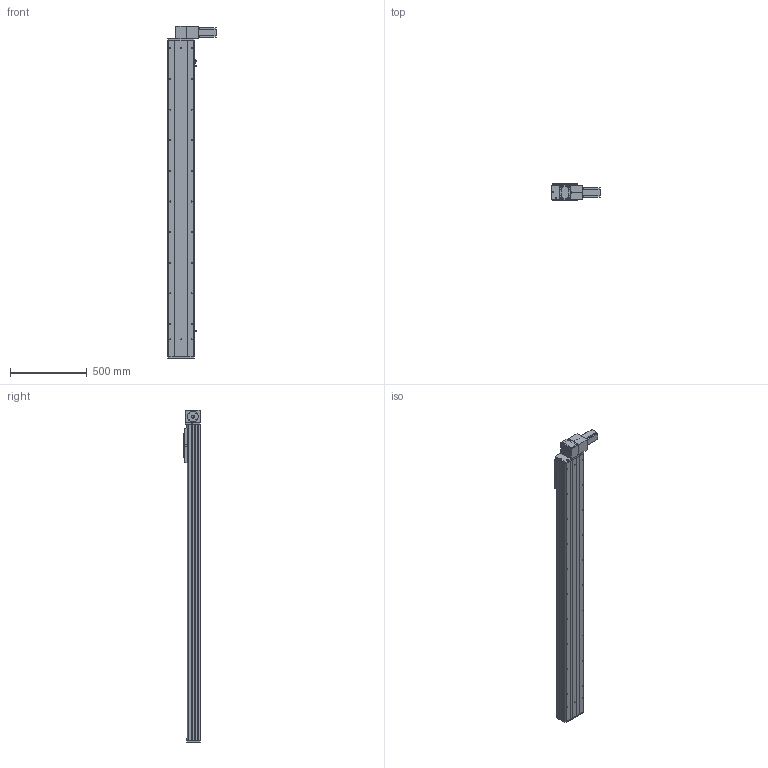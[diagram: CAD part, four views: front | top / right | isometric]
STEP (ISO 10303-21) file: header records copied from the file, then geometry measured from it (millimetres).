
FILE_DESCRIPTION (( 'STEP AP203' ), '1' );
FILE_NAME ('Y170CB-D105-S1750-BD-P400W.STEP', '2020-02-20T08:53:04', ( '微软用户' ), ( '微软中国' ), 'SwSTEP 2.0', 'SolidWorks 2017', '' );
FILE_SCHEMA (( 'CONFIG_CONTROL_DESIGN' ));
Length unit declared in the file: millimetre
Products named in the file (16): Y170CB-陔俋离換覜結え---; --70CB --喘謫眊楊擘啣-; Y1埴倛裔; 70CB-耜裔啣-; 70B喘謫眊----; 70C--詩湍揤踡え-; 0B薊粣ん眊-400W--; 70CB--耜裔; Y170CB-D105-S1750-BD-P400W; 70C-雄赽釱-奻-; 0C--雄赽釱俋欶-170; B-源倛裔啣; 70CB-詩湍--; san松下电机400不带刹车----; Y100-135俋离換覜ん--; 70CB-掛极-
Assembly tree (19 placements, depth 2):
  Y170CB-D105-S1750-BD-P400W
    B-源倛裔啣
    san松下电机400不带刹车----
    70CB-掛极-
    --70CB --喘謫眊楊擘啣-
    70CB-耜裔啣-  x2
    70C--詩湍揤踡え-  x2
    70CB--耜裔
    70C-雄赽釱-奻-
    0C--雄赽釱俋欶-170
    70CB-詩湍--
    Y100-135俋离換覜ん--  x3
    Y170CB-陔俋离換覜結え---
    Y1埴倛裔
    70B喘謫眊----
    0B薊粣ん眊-400W--
Bounding box: 313.5 x 107 x 2166 mm (x, y, z)
Volume: 9779561.2 mm3; surface area: 3391175.5 mm2
Topology: 19 solids, 19 shells, 952 faces, 2522 edges, 1672 vertices
Faces by surface type: cylinder 506, plane 422, cone 24
Entity records: 29887 total; most frequent: CARTESIAN_POINT 5566, DIRECTION 4863, ORIENTED_EDGE 4526, EDGE_CURVE 2263, AXIS2_PLACEMENT_3D 1801, VERTEX_POINT 1502, VECTOR 1261, LINE 1261
